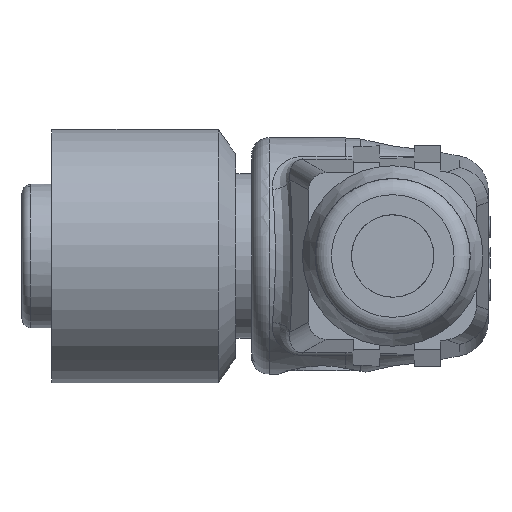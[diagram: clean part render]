
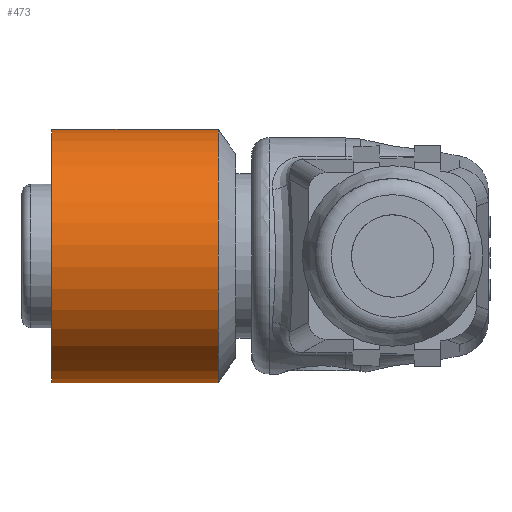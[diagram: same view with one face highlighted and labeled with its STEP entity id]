
A CAD part, front view. The second image highlights one B-rep face of the part: STEP entity #473.
In plain terms, the highlighted cylindrical face has radius 7.25 mm (diameter 14.5 mm), a full revolution.
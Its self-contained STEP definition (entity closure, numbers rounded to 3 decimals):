
#473 = ADVANCED_FACE( '', ( #1029, #1030 ), #1031, .T. );
#1029 = FACE_OUTER_BOUND( '', #2450, .T. );
#1030 = FACE_OUTER_BOUND( '', #2451, .T. );
#1031 = CYLINDRICAL_SURFACE( '', #2452, 7.25 );
#2450 = EDGE_LOOP( '', ( #4241 ) );
#2451 = EDGE_LOOP( '', ( #4242 ) );
#2452 = AXIS2_PLACEMENT_3D( '', #4243, #4244, #4245 );
#4241 = ORIENTED_EDGE( '', *, *, #5189, .T. );
#4242 = ORIENTED_EDGE( '', *, *, #5129, .F. );
#4243 = CARTESIAN_POINT( '', ( 15.654, 27.333, 0. ) );
#4244 = DIRECTION( '', ( 1., 0., 0. ) );
#4245 = DIRECTION( '', ( 0., 0.707, 0.707 ) );
#5129 = EDGE_CURVE( '', #6012, #6012, #6013, .T. );
#5189 = EDGE_CURVE( '', #6082, #6082, #6083, .T. );
#6012 = VERTEX_POINT( '', #8925 );
#6013 = CIRCLE( '', #8926, 7.25 );
#6082 = VERTEX_POINT( '', #9136 );
#6083 = CIRCLE( '', #9137, 7.25 );
#8925 = CARTESIAN_POINT( '', ( 20.404, 32.46, 5.127 ) );
#8926 = AXIS2_PLACEMENT_3D( '', #9708, #9709, #9710 );
#9136 = CARTESIAN_POINT( '', ( 10.904, 22.207, -5.127 ) );
#9137 = AXIS2_PLACEMENT_3D( '', #9755, #9756, #9757 );
#9708 = CARTESIAN_POINT( '', ( 20.404, 27.333, 0. ) );
#9709 = DIRECTION( '', ( 1., 0., 0. ) );
#9710 = DIRECTION( '', ( 0., 0.707, 0.707 ) );
#9755 = CARTESIAN_POINT( '', ( 10.904, 27.333, 0. ) );
#9756 = DIRECTION( '', ( 1., 0., 0. ) );
#9757 = DIRECTION( '', ( 0., -0.707, -0.707 ) );
